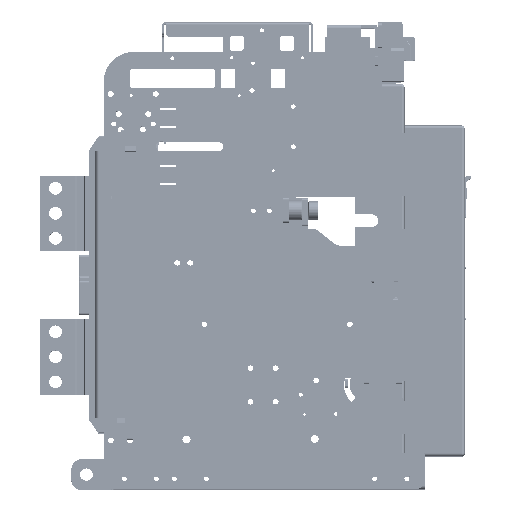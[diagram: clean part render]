
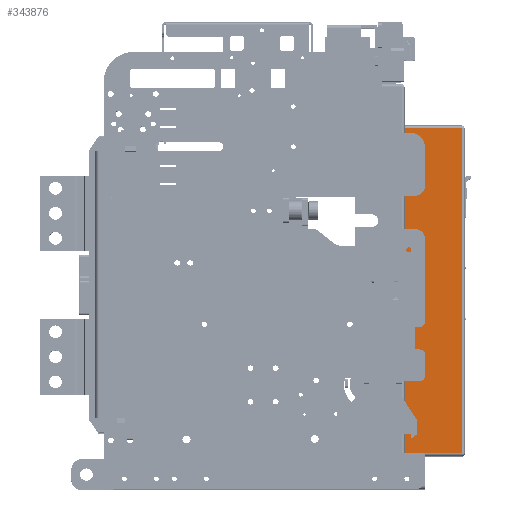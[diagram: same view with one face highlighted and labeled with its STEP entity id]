
A CAD part, top view. The second image highlights one B-rep face of the part: STEP entity #343876.
In plain terms, the highlighted planar face has unit normal (0, 0, 1) as drawn and (-1, 0, 0) by its records, which use the part's own axes.
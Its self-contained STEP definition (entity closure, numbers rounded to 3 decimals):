
#323597=DIRECTION('',(0.,0.,-1.));
#323598=VECTOR('',#323597,57.);
#323599=CARTESIAN_POINT('',(-135.,-175.65,106.));
#323600=LINE('',#323599,#323598);
#323601=DIRECTION('',(0.,0.,-1.));
#323602=VECTOR('',#323601,57.);
#323603=CARTESIAN_POINT('',(-135.,148.35,106.));
#323604=LINE('',#323603,#323602);
#323605=DIRECTION('',(0.,-1.,0.));
#323606=VECTOR('',#323605,324.);
#323607=CARTESIAN_POINT('',(-135.,148.35,106.));
#323608=LINE('',#323607,#323606);
#323910=DIRECTION('',(0.,-1.,0.));
#323911=VECTOR('',#323910,324.);
#323912=CARTESIAN_POINT('',(-135.,148.35,49.));
#323913=LINE('',#323912,#323911);
#337870=CARTESIAN_POINT('',(-135.,-175.65,106.));
#337872=VERTEX_POINT('',#337870);
#337896=CARTESIAN_POINT('',(-135.,-175.65,49.));
#337897=VERTEX_POINT('',#337896);
#337900=CARTESIAN_POINT('',(-135.,148.35,106.));
#337901=VERTEX_POINT('',#337900);
#337918=CARTESIAN_POINT('',(-135.,148.35,49.));
#337919=VERTEX_POINT('',#337918);
#343862=CARTESIAN_POINT('',(-135.,151.35,49.));
#343863=DIRECTION('',(-1.,0.,0.));
#343864=DIRECTION('',(0.,-1.,0.));
#343865=AXIS2_PLACEMENT_3D('',#343862,#343863,#343864);
#343866=PLANE('',#343865);
#343868=ORIENTED_EDGE('',*,*,#343867,.T.);
#343870=ORIENTED_EDGE('',*,*,#343869,.F.);
#343872=ORIENTED_EDGE('',*,*,#343871,.F.);
#343873=ORIENTED_EDGE('',*,*,#343854,.T.);
#343874=EDGE_LOOP('',(#343868,#343870,#343872,#343873));
#343875=FACE_OUTER_BOUND('',#343874,.F.);
#343876=ADVANCED_FACE('',(#343875),#343866,.T.);
#343854=EDGE_CURVE('',#337901,#337872,#323608,.T.);
#343867=EDGE_CURVE('',#337872,#337897,#323600,.T.);
#343869=EDGE_CURVE('',#337919,#337897,#323913,.T.);
#343871=EDGE_CURVE('',#337901,#337919,#323604,.T.);
